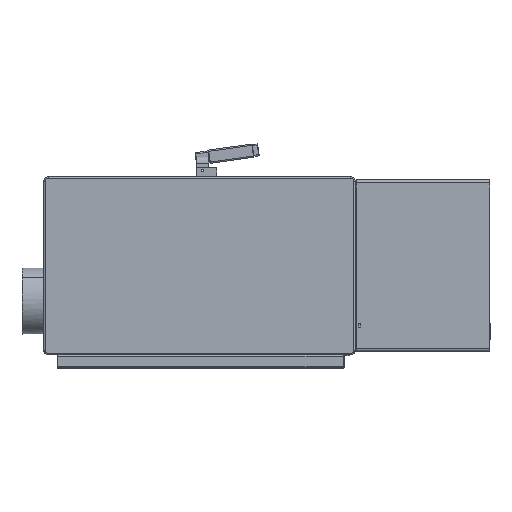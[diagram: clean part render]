
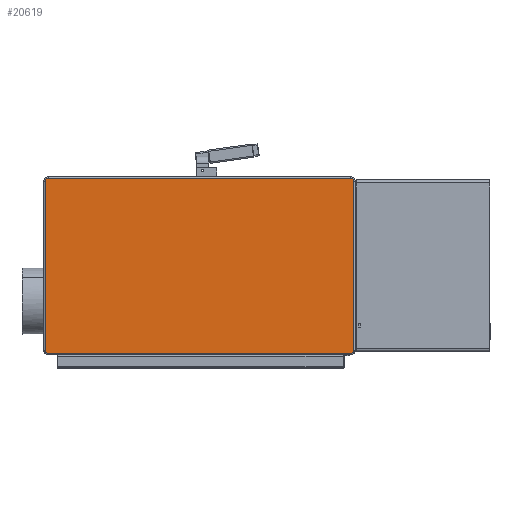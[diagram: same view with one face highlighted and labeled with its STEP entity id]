
A CAD part, left-side view. The second image highlights one B-rep face of the part: STEP entity #20619.
In plain terms, the highlighted planar face has unit normal (-1, 0, 0).
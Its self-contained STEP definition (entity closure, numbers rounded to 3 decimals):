
#1243 = DIRECTION ( 'NONE',  ( 0., -1., 0. ) ) ;
#3399 = LINE ( 'NONE', #34482, #21342 ) ;
#3850 = CARTESIAN_POINT ( 'NONE',  ( -310., 311., -197. ) ) ;
#6656 = VECTOR ( 'NONE', #39894, 1000. ) ;
#7251 = EDGE_CURVE ( 'NONE', #80026, #75250, #81317, .T. ) ;
#7993 = ORIENTED_EDGE ( 'NONE', *, *, #60578, .T. ) ;
#8531 = ORIENTED_EDGE ( 'NONE', *, *, #34624, .T. ) ;
#8596 = ORIENTED_EDGE ( 'NONE', *, *, #33207, .F. ) ;
#9132 = CARTESIAN_POINT ( 'NONE',  ( -310., 311., 190. ) ) ;
#10700 = CARTESIAN_POINT ( 'NONE',  ( -310., 991., -197. ) ) ;
#10850 = DIRECTION ( 'NONE',  ( 0., -1., 0. ) ) ;
#13113 = ORIENTED_EDGE ( 'NONE', *, *, #83207, .T. ) ;
#13724 = CARTESIAN_POINT ( 'NONE',  ( -310., 998., -190. ) ) ;
#14789 = VECTOR ( 'NONE', #10850, 1000. ) ;
#15915 = DIRECTION ( 'NONE',  ( 0., -1., 0. ) ) ;
#16400 = CIRCLE ( 'NONE', #75388, 7. ) ;
#19449 = CARTESIAN_POINT ( 'NONE',  ( -310., 991., -190. ) ) ;
#20619 = ADVANCED_FACE ( 'NONE', ( #39011 ), #21196, .F. ) ;
#21196 = PLANE ( 'NONE',  #74095 ) ;
#21342 = VECTOR ( 'NONE', #54846, 1000. ) ;
#22628 = VERTEX_POINT ( 'NONE', #10700 ) ;
#22886 = VERTEX_POINT ( 'NONE', #47886 ) ;
#24800 = ORIENTED_EDGE ( 'NONE', *, *, #66476, .F. ) ;
#24859 = CARTESIAN_POINT ( 'NONE',  ( -310., 304., -190. ) ) ;
#26233 = DIRECTION ( 'NONE',  ( 0., -1., 0. ) ) ;
#27661 = CARTESIAN_POINT ( 'NONE',  ( -310., 1001., -200. ) ) ;
#27958 = DIRECTION ( 'NONE',  ( 0., -1., 0. ) ) ;
#28101 = CARTESIAN_POINT ( 'NONE',  ( -310., 991., 190. ) ) ;
#28462 = EDGE_LOOP ( 'NONE', ( #24800, #7993, #8596, #13113, #65970, #8531, #30194, #59194 ) ) ;
#28772 = CARTESIAN_POINT ( 'NONE',  ( -310., 998., -200. ) ) ;
#30194 = ORIENTED_EDGE ( 'NONE', *, *, #7251, .F. ) ;
#32814 = CARTESIAN_POINT ( 'NONE',  ( -310., 1001., 197. ) ) ;
#33207 = EDGE_CURVE ( 'NONE', #48409, #73381, #16400, .T. ) ;
#34128 = VERTEX_POINT ( 'NONE', #13724 ) ;
#34482 = CARTESIAN_POINT ( 'NONE',  ( -310., 304., -200. ) ) ;
#34624 = EDGE_CURVE ( 'NONE', #22886, #75250, #48913, .T. ) ;
#34878 = DIRECTION ( 'NONE',  ( 0., -1., 0. ) ) ;
#35226 = VERTEX_POINT ( 'NONE', #49058 ) ;
#39011 = FACE_OUTER_BOUND ( 'NONE', #28462, .T. ) ;
#39894 = DIRECTION ( 'NONE',  ( 0., 1., 0. ) ) ;
#41622 = DIRECTION ( 'NONE',  ( 1., 0., 0. ) ) ;
#44559 = AXIS2_PLACEMENT_3D ( 'NONE', #19449, #66633, #26233 ) ;
#44620 = CARTESIAN_POINT ( 'NONE',  ( -310., 998., 190. ) ) ;
#47886 = CARTESIAN_POINT ( 'NONE',  ( -310., 311., 197. ) ) ;
#48409 = VERTEX_POINT ( 'NONE', #24859 ) ;
#48869 = VECTOR ( 'NONE', #75952, 1000. ) ;
#48913 = LINE ( 'NONE', #32814, #6656 ) ;
#49058 = CARTESIAN_POINT ( 'NONE',  ( -310., 304., 190. ) ) ;
#50761 = CIRCLE ( 'NONE', #44559, 7. ) ;
#50984 = LINE ( 'NONE', #28772, #48869 ) ;
#54134 = EDGE_CURVE ( 'NONE', #22886, #35226, #55716, .T. ) ;
#54846 = DIRECTION ( 'NONE',  ( 0., 0., 1. ) ) ;
#55716 = CIRCLE ( 'NONE', #56808, 7. ) ;
#55877 = CARTESIAN_POINT ( 'NONE',  ( -310., 991., 197. ) ) ;
#56346 = DIRECTION ( 'NONE',  ( 1., 0., 0. ) ) ;
#56808 = AXIS2_PLACEMENT_3D ( 'NONE', #9132, #56346, #15915 ) ;
#57266 = EDGE_CURVE ( 'NONE', #80026, #34128, #50984, .T. ) ;
#58066 = CARTESIAN_POINT ( 'NONE',  ( -310., 301., -197. ) ) ;
#59194 = ORIENTED_EDGE ( 'NONE', *, *, #57266, .T. ) ;
#60578 = EDGE_CURVE ( 'NONE', #22628, #73381, #80183, .T. ) ;
#65970 = ORIENTED_EDGE ( 'NONE', *, *, #54134, .F. ) ;
#66476 = EDGE_CURVE ( 'NONE', #22628, #34128, #50761, .T. ) ;
#66633 = DIRECTION ( 'NONE',  ( 1., 0., 0. ) ) ;
#68379 = DIRECTION ( 'NONE',  ( 1., 0., 0. ) ) ;
#73381 = VERTEX_POINT ( 'NONE', #3850 ) ;
#74095 = AXIS2_PLACEMENT_3D ( 'NONE', #27661, #68379, #27958 ) ;
#75250 = VERTEX_POINT ( 'NONE', #55877 ) ;
#75283 = DIRECTION ( 'NONE',  ( 1., 0., 0. ) ) ;
#75388 = AXIS2_PLACEMENT_3D ( 'NONE', #82025, #41622, #1243 ) ;
#75952 = DIRECTION ( 'NONE',  ( 0., 0., -1. ) ) ;
#80026 = VERTEX_POINT ( 'NONE', #44620 ) ;
#80183 = LINE ( 'NONE', #58066, #14789 ) ;
#81317 = CIRCLE ( 'NONE', #83591, 7. ) ;
#82025 = CARTESIAN_POINT ( 'NONE',  ( -310., 311., -190. ) ) ;
#83207 = EDGE_CURVE ( 'NONE', #48409, #35226, #3399, .T. ) ;
#83591 = AXIS2_PLACEMENT_3D ( 'NONE', #28101, #75283, #34878 ) ;
